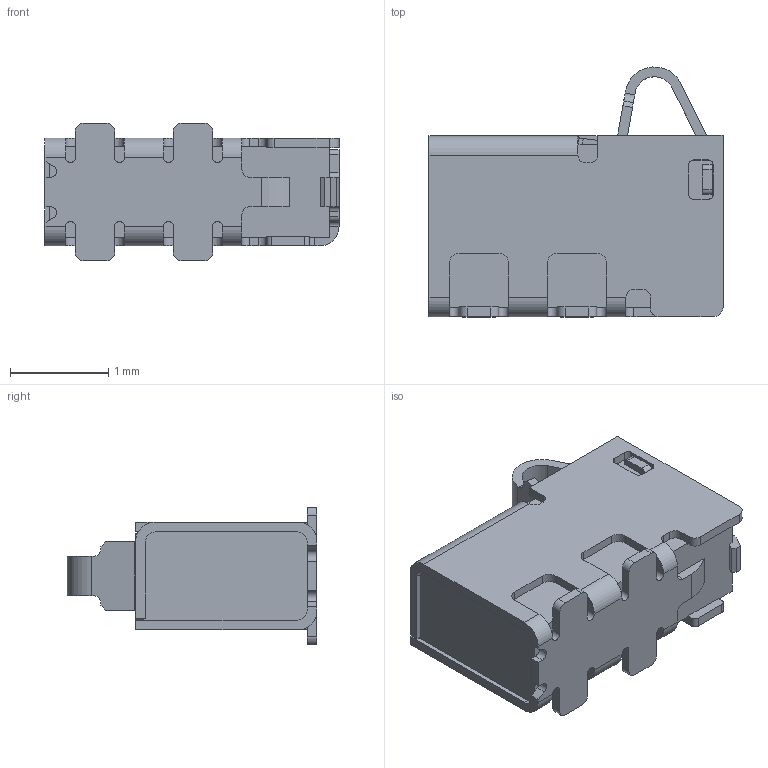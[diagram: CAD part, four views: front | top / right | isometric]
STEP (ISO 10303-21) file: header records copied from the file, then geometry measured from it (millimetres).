
FILE_DESCRIPTION((''),'2;1');
FILE_NAME('ASM0006_ASM','2022-04-26T',('Moriguchi'),(''),'CREO PARAMETRIC BY PTC INC, 2014500','CREO PARAMETRIC BY PTC INC, 2014500','');
FILE_SCHEMA(('CONFIG_CONTROL_DESIGN'));
Products named in the file (2): 3D-2014009-00-00; ASM0006_ASM
Assembly tree (1 placements, depth 2):
  ASM0006_ASM
    3D-2014009-00-00
Bounding box: 3 x 2.55 x 1.4 mm (x, y, z)
Volume: 5.7 mm3; surface area: 26.7 mm2
Topology: 1 solids, 1 shells, 256 faces, 720 edges, 469 vertices
Faces by surface type: plane 160, cylinder 96
Entity records: 8313 total; most frequent: CARTESIAN_POINT 1460, ORIENTED_EDGE 1440, DIRECTION 1428, EDGE_CURVE 720, VECTOR 526, LINE 526, VERTEX_POINT 469, AXIS2_PLACEMENT_3D 451
